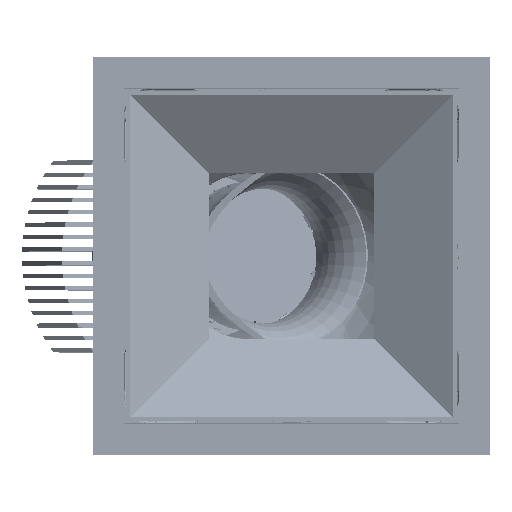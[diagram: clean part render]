
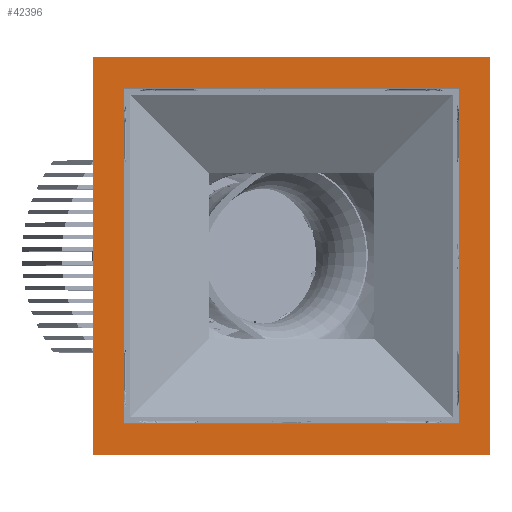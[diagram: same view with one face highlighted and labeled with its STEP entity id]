
A CAD part, top view. The second image highlights one B-rep face of the part: STEP entity #42396.
In plain terms, the highlighted planar face has unit normal (0, 0, 1).
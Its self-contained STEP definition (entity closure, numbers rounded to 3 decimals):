
#36994=CARTESIAN_POINT('Vertex',(-40.5,-40.5,0.)) ;
#36997=CARTESIAN_POINT('Line Origine',(0.,-40.5,0.)) ;
#37001=CARTESIAN_POINT('Vertex',(40.5,-40.5,0.)) ;
#37692=CARTESIAN_POINT('Vertex',(-40.5,40.5,0.)) ;
#37695=CARTESIAN_POINT('Line Origine',(-40.5,0.,0.)) ;
#40905=CARTESIAN_POINT('Vertex',(48.,-48.,0.)) ;
#40912=CARTESIAN_POINT('Vertex',(48.,48.,0.)) ;
#40915=CARTESIAN_POINT('Line Origine',(48.,0.,0.)) ;
#40936=CARTESIAN_POINT('Vertex',(-48.,-48.,0.)) ;
#40939=CARTESIAN_POINT('Line Origine',(0.,-48.,0.)) ;
#40960=CARTESIAN_POINT('Vertex',(-48.,48.,0.)) ;
#40963=CARTESIAN_POINT('Line Origine',(-48.,0.,0.)) ;
#40980=CARTESIAN_POINT('Line Origine',(0.,48.,0.)) ;
#41676=CARTESIAN_POINT('Line Origine',(40.5,0.,0.)) ;
#41680=CARTESIAN_POINT('Vertex',(40.5,40.5,0.)) ;
#42374=CARTESIAN_POINT('Axis2P3D Location',(-40.5,0.,0.)) ;
#42385=CARTESIAN_POINT('Line Origine',(0.,40.5,0.)) ;
#36998=DIRECTION('Vector Direction',(-1.,0.,0.)) ;
#37696=DIRECTION('Vector Direction',(0.,1.,0.)) ;
#40916=DIRECTION('Vector Direction',(0.,1.,0.)) ;
#40940=DIRECTION('Vector Direction',(1.,0.,0.)) ;
#40964=DIRECTION('Vector Direction',(0.,-1.,0.)) ;
#40981=DIRECTION('Vector Direction',(-1.,0.,0.)) ;
#41677=DIRECTION('Vector Direction',(0.,-1.,0.)) ;
#42375=DIRECTION('Axis2P3D Direction',(0.,0.,-1.)) ;
#42376=DIRECTION('Axis2P3D XDirection',(0.,1.,0.)) ;
#42386=DIRECTION('Vector Direction',(-1.,0.,0.)) ;
#42377=AXIS2_PLACEMENT_3D('Plane Axis2P3D',#42374,#42375,#42376) ;
#42380=ORIENTED_EDGE('',*,*,#40967,.T.) ;
#42381=ORIENTED_EDGE('',*,*,#40943,.T.) ;
#42382=ORIENTED_EDGE('',*,*,#40919,.T.) ;
#42383=ORIENTED_EDGE('',*,*,#40984,.T.) ;
#42391=ORIENTED_EDGE('',*,*,#41682,.T.) ;
#42392=ORIENTED_EDGE('',*,*,#37003,.T.) ;
#42393=ORIENTED_EDGE('',*,*,#37699,.T.) ;
#42394=ORIENTED_EDGE('',*,*,#42389,.F.) ;
#42395=FACE_BOUND('',#42390,.T.) ;
#36999=VECTOR('Line Direction',#36998,1.) ;
#37697=VECTOR('Line Direction',#37696,1.) ;
#40917=VECTOR('Line Direction',#40916,1.) ;
#40941=VECTOR('Line Direction',#40940,1.) ;
#40965=VECTOR('Line Direction',#40964,1.) ;
#40982=VECTOR('Line Direction',#40981,1.) ;
#41678=VECTOR('Line Direction',#41677,1.) ;
#42387=VECTOR('Line Direction',#42386,1.) ;
#42396=ADVANCED_FACE('223\\174\\169\\MANIFOLD_SOLID_BREP #25466',(#42384,#42395),#42378,.F.) ;
#37003=EDGE_CURVE('',#37002,#36995,#37000,.T.) ;
#37699=EDGE_CURVE('',#36995,#37693,#37698,.T.) ;
#40919=EDGE_CURVE('',#40906,#40913,#40918,.T.) ;
#40943=EDGE_CURVE('',#40937,#40906,#40942,.T.) ;
#40967=EDGE_CURVE('',#40961,#40937,#40966,.T.) ;
#40984=EDGE_CURVE('',#40913,#40961,#40983,.T.) ;
#41682=EDGE_CURVE('',#41681,#37002,#41679,.T.) ;
#42389=EDGE_CURVE('',#41681,#37693,#42388,.T.) ;
#42379=EDGE_LOOP('',(#42380,#42381,#42382,#42383)) ;
#42390=EDGE_LOOP('',(#42391,#42392,#42393,#42394)) ;
#42384=FACE_OUTER_BOUND('',#42379,.T.) ;
#37000=LINE('Line',#36997,#36999) ;
#37698=LINE('Line',#37695,#37697) ;
#40918=LINE('Line',#40915,#40917) ;
#40942=LINE('Line',#40939,#40941) ;
#40966=LINE('Line',#40963,#40965) ;
#40983=LINE('Line',#40980,#40982) ;
#41679=LINE('Line',#41676,#41678) ;
#42388=LINE('Line',#42385,#42387) ;
#42378=PLANE('',#42377) ;
#36995=VERTEX_POINT('',#36994) ;
#37002=VERTEX_POINT('',#37001) ;
#37693=VERTEX_POINT('',#37692) ;
#40906=VERTEX_POINT('',#40905) ;
#40913=VERTEX_POINT('',#40912) ;
#40937=VERTEX_POINT('',#40936) ;
#40961=VERTEX_POINT('',#40960) ;
#41681=VERTEX_POINT('',#41680) ;
